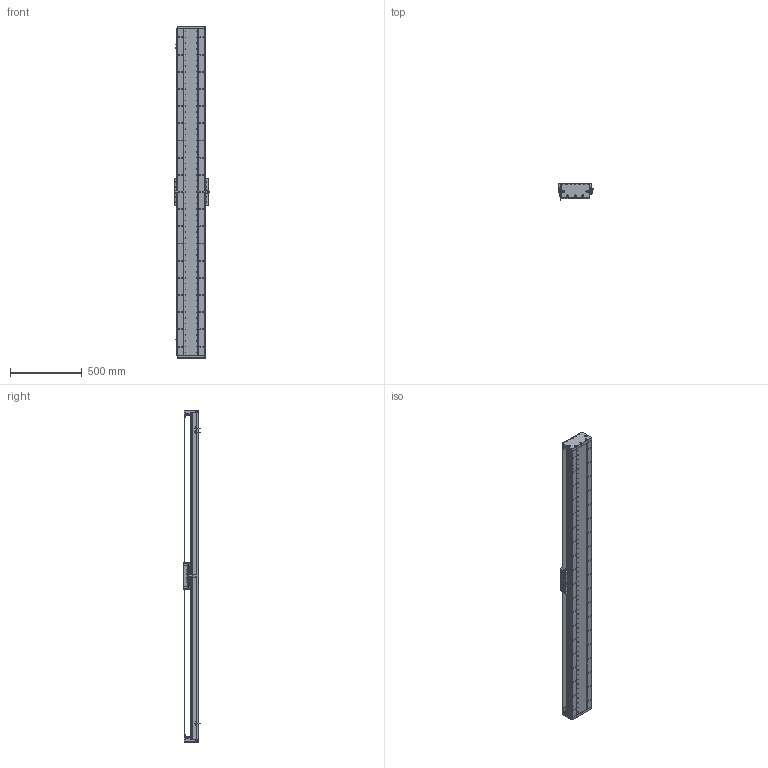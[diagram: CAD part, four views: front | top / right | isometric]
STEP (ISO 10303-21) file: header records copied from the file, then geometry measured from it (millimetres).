
FILE_DESCRIPTION (( 'STEP AP203' ), '1' );
FILE_NAME ('DA-C195-C2-T2040-C010-0.2 眻盄萇儂.STEP', '2025-08-15T01:10:22', ( '' ), ( '' ), 'SwSTEP 2.0', 'SolidWorks 2019', '' );
FILE_SCHEMA (( 'CONFIG_CONTROL_DESIGN' ));
Length unit declared in the file: millimetre
Products named in the file (15): DA195詩湍郪璃; IU-CU195-L-00 菁釱(L2280); CU195-C2賑輸-俋楷; DA195詩湍裔啣; DA165-GYP-00 光电感应片(默认); PM-T45ㄗ侂狟ㄘ; DA195詩湍嶺輸; DA-C195-C2-T2040-C010-0.2 眻盄萇儂; DA195詩湍菜輸; 葩璃 DA95-GT-T-00; MS200 棠掑喜S315-T1740; DA-C195-GD-DB-H-00 傷啣; LMT黍杅芛; DA95-HXJ-00 遣喳砎蝶; IU-CU195-L 菁釱絳寢
Assembly tree (29 placements, depth 3):
  DA-C195-C2-T2040-C010-0.2 眻盄萇儂
    DA195詩湍郪璃
      DA195詩湍菜輸  x2
      DA195詩湍裔啣
      DA195詩湍嶺輸  x2
      DA95-HXJ-00 遣喳砎蝶  x8
      DA-C195-GD-DB-H-00 傷啣  x2
    IU-CU195-L 菁釱絳寢
      IU-CU195-L-00 菁釱(L2280)
      葩璃 DA95-GT-T-00  x4
    LMT黍杅芛
    MS200 棠掑喜S315-T1740
    PM-T45ㄗ侂狟ㄘ  x3
    DA165-GYP-00 光电感应片(默认)
    CU195-C2賑輸-俋楷
Bounding box: 248 x 115.45 x 2320 mm (x, y, z)
Volume: 13541017.8 mm3; surface area: 3984431.4 mm2
Topology: 66 solids, 130 shells, 4252 faces, 11731 edges, 7367 vertices
Faces by surface type: cylinder 2239, plane 1395, cone 530, torus 52, sphere 36
Entity records: 133447 total; most frequent: CARTESIAN_POINT 35286, ORIENTED_EDGE 20346, DIRECTION 19872, EDGE_CURVE 10173, AXIS2_PLACEMENT_3D 7461, VERTEX_POINT 6569, VECTOR 4950, LINE 4950
